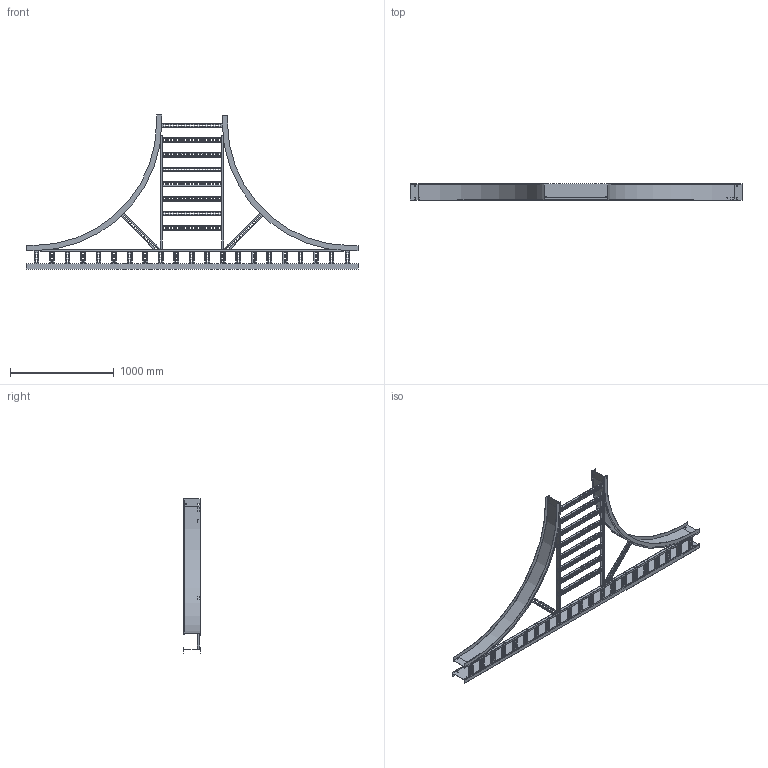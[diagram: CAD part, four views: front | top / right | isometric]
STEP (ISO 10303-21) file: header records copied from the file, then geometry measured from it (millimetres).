
FILE_DESCRIPTION((''),'2;1');
FILE_NAME('AHF60624VET48_ASM','2010-02-03T',('erouzier'),(''),'PRO/ENGINEER BY PARAMETRIC TECHNOLOGY CORPORATION, 2008510','PRO/ENGINEER BY PARAMETRIC TECHNOLOGY CORPORATION, 2008510','');
FILE_SCHEMA(('CONFIG_CONTROL_DESIGN'));
Length unit declared in the file: inch
Products named in the file (22): CDS001812-6-90-48-I; CDS013847-6-126; CDS000495_GEN_AF9; CDS002159L6-P_AF8; CDS002159L6-P_AF9; CDS002159L6-P_AF10; CDS002159L6-P_AF11; CDS002159L6-P; CDS002159L6-P_AF12; CDS002159L6-P_AF13; CDS002159L6-P_AF14; CDS002159L6-P_AF15; CDS000495_GEN_AF10; CDS000495_GEN_AF11; CDS002159L24-P_AF10; CDS002159L24-P_AF11; CDS002159L24-P_AF12; CDS002159L24-P_AF13; CDS002159L24-P; CDS002159L24-P_AF14; CDS002159L24-P_AF15; AHF60624VET48_ASM
Assembly tree (37 placements, depth 2):
  AHF60624VET48_ASM
    CDS001812-6-90-48-I  x2
    CDS013847-6-126
    CDS000495_GEN_AF9
    CDS002159L6-P_AF8
    CDS002159L6-P_AF9
    CDS002159L6-P_AF10
    CDS002159L6-P_AF11
    CDS002159L6-P  x13
    CDS002159L6-P_AF12
    CDS002159L6-P_AF13
    CDS002159L6-P_AF14
    CDS002159L6-P_AF15
    CDS000495_GEN_AF10
    CDS000495_GEN_AF11
    CDS002159L24-P_AF10
    CDS002159L24-P_AF11
    CDS002159L24-P_AF12
    CDS002159L24-P_AF13
    CDS002159L24-P  x4
    CDS002159L24-P_AF14
    CDS002159L24-P_AF15
Bounding box: 3205.48 x 160.02 x 1487.55 mm (x, y, z)
Volume: 6777581.8 mm3; surface area: 6504547.5 mm2
Topology: 37 solids, 37 shells, 3442 faces, 10104 edges, 6736 vertices
Faces by surface type: plane 1907, cylinder 1535
Entity records: 69599 total; most frequent: CARTESIAN_POINT 12233, ORIENTED_EDGE 11976, DIRECTION 11954, EDGE_CURVE 5988, VECTOR 4172, LINE 4172, VERTEX_POINT 3992, AXIS2_PLACEMENT_3D 3891
